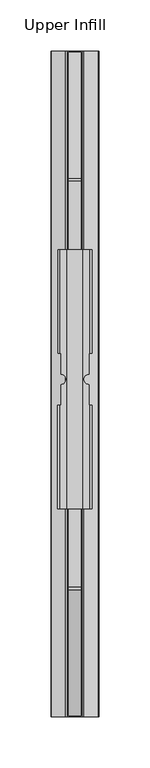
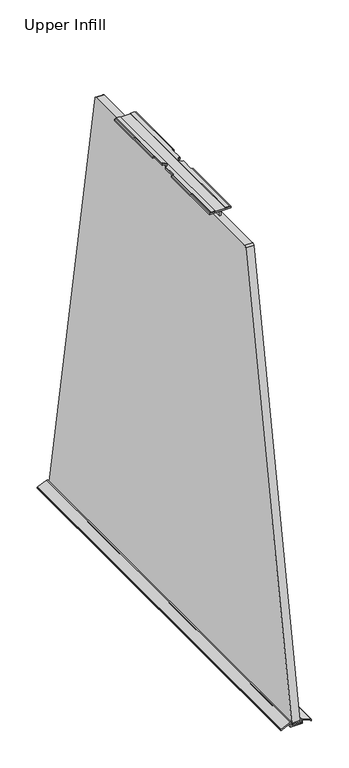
"""IFC4 building model written with IfcOpenShell, lengths in millimetres: furniture geometry, Steelcase Turnstone - Bivi - Arch - Infill : Upper Infill."""

from ifc_helpers import new_model, si_unit, point, frame, frame_2d, origin, place, context, project, spatial, polyline, circle_curve, trimmed, segment, composite_curve, outline, extrude, source, transform, mapped, element, save


def upper_infill_980a8054(model_context):
    return source(origin(), model_context, "Body", "SweptSolid", [
        extrude(outline(composite_curve([segment(polyline([(1056.3139006, 16.8483173), (1062.4147299, 16.8483173), (1062.4147299, 15.6367634), (1056.4592271, 1.4984313)]), True, "CONTINUOUS"), segment(trimmed(circle_curve(frame_2d((1055.6535592, 1.8378035)), 0.8742278), [point((1056.4592271, 1.4984313))], [point((1055.6230491, 0.9641082))], False, "CARTESIAN"), True, "CONTINUOUS"), segment(polyline([(1055.6230491, 0.9641082), (1054.287319, 1.010753), (1054.287319, 2.4550533), (1054.9932365, 2.8463498), (1060.4032547, 14.7924092)]), True, "CONTINUOUS"), segment(trimmed(circle_curve(frame_2d((1060.0245366, 14.9639195)), 0.4157442), [point((1060.4032547, 14.7924092))], [point((1060.0245366, 15.3796636))], True, "CARTESIAN"), True, "CONTINUOUS"), segment(polyline([(1060.0245366, 15.3796636), (1054.5412279, 15.3796636), (1054.5412279, 33.7439364), (1060.0245366, 33.7439364)]), True, "CONTINUOUS"), segment(trimmed(circle_curve(frame_2d((1060.0245366, 34.1596805)), 0.4157442), [point((1060.0245366, 33.7439364))], [point((1060.4032547, 34.3311908))], True, "CARTESIAN"), True, "CONTINUOUS"), segment(polyline([(1060.4032547, 34.3311908), (1054.9932365, 46.2772502), (1054.287319, 46.6685467), (1054.287319, 48.112847), (1055.6230491, 48.1594918)]), True, "CONTINUOUS"), segment(trimmed(circle_curve(frame_2d((1055.6535592, 47.2857965)), 0.8742278), [point((1055.6230491, 48.1594918))], [point((1056.4592271, 47.6251687))], False, "CARTESIAN"), True, "CONTINUOUS"), segment(polyline([(1056.4592271, 47.6251687), (1062.4147299, 33.4868366), (1062.4147299, 32.0768452), (1056.3139006, 32.0768452), (1056.3139006, 16.8483173)]), True, "CONTINUOUS")], self_intersect=False)), frame((0.0, 210.1620205, 0.0), z_axis=(0.0, 1.0, 0.0), x_axis=(0.0, 0.0, 1.0)), (0.0, 0.0, 1.0), 652.7573386),
        extrude(outline(composite_curve([segment(polyline([(38.3158444, 566.4459443), (38.3158444, 546.0869541)]), True, "CONTINUOUS"), segment(trimmed(circle_curve(frame_2d((38.3158444, 541.0283867)), 5.0585674), [point((38.3158444, 546.0869541))], [point((38.3158444, 535.9698193))], True, "CARTESIAN"), True, "CONTINUOUS"), segment(polyline([(38.3158444, 535.9698193), (38.3158444, 515.5348269), (39.1647369, 515.5348269), (39.1647369, 414.0469758), (32.7531582, 414.0469758), (32.7531582, 668.046782), (39.1013415, 668.046782), (39.1013415, 566.4459443), (38.3158444, 566.4459443)]), True, "CONTINUOUS")], self_intersect=False)), frame((0.0, 0.0, 1772.7264847), z_axis=(0.0, 0.0, 1.0), x_axis=(1.0, 0.0, 0.0)), (0.0, 0.0, 1.0), 1.0160233),
        extrude(outline(composite_curve([segment(polyline([(10.8077556, 566.4459443), (10.0222585, 566.4459443), (10.0222585, 668.046782), (16.3704418, 668.046782), (16.3704418, 414.0469758), (9.9588631, 414.0469758), (9.9588631, 515.5348269), (10.8077556, 515.5348269), (10.8077556, 535.9698193)]), True, "CONTINUOUS"), segment(trimmed(circle_curve(frame_2d((10.8077556, 541.0283867)), 5.0585674), [point((10.8077556, 535.9698193))], [point((10.8077556, 546.0869541))], True, "CARTESIAN"), True, "CONTINUOUS"), segment(polyline([(10.8077556, 546.0869541), (10.8077556, 566.4459443)]), True, "CONTINUOUS")], self_intersect=False)), frame((0.0, 0.0, 1772.7264847), z_axis=(0.0, 0.0, 1.0), x_axis=(1.0, 0.0, 0.0)), (0.0, 0.0, 1.0), 1.0160233),
        extrude(outline(composite_curve([segment(polyline([(41.3835302, 668.046782), (41.3835302, 566.4459443), (38.3158444, 566.4459443), (38.3158444, 546.0869541)]), True, "CONTINUOUS"), segment(trimmed(circle_curve(frame_2d((38.3158444, 541.0283867)), 5.0585674), [point((38.3158444, 546.0869541))], [point((38.3158444, 535.9698193))], True, "CARTESIAN"), True, "CONTINUOUS"), segment(polyline([(38.3158444, 535.9698193), (38.3158444, 515.5348269), (41.3835302, 515.5348269), (41.3835302, 414.0469758), (7.7400698, 414.0469758), (7.7400698, 515.5348269), (10.8077556, 515.5348269), (10.8077556, 535.9698193)]), True, "CONTINUOUS"), segment(trimmed(circle_curve(frame_2d((10.8077556, 541.0283867)), 5.0585674), [point((10.8077556, 535.9698193))], [point((10.8077556, 546.0869541))], True, "CARTESIAN"), True, "CONTINUOUS"), segment(polyline([(10.8077556, 546.0869541), (10.8077556, 566.4459443), (7.8735207, 566.4459443), (7.8735207, 668.046782), (41.3835302, 668.046782)]), True, "CONTINUOUS")], self_intersect=False)), frame((0.0, 0.0, 1770.1865234), z_axis=(0.0, 0.0, 1.0), x_axis=(1.0, 0.0, 0.0)), (0.0, 0.0, 1.0), 2.5399612),
        extrude(outline(polyline([(1770.1865234, 23.4223899), (1760.7546077, 23.4223899), (1758.5053812, 23.8189892), (1758.5053812, 25.3790737), (1760.849673, 25.8347578), (1770.1865234, 25.8347578), (1770.1865234, 23.4223899)])), frame((0.0, 414.0469758, 0.0), z_axis=(0.0, 1.0, 0.0), x_axis=(0.0, 0.0, 1.0)), (0.0, 0.0, 1.0), 253.9998062),
        extrude(outline(composite_curve([segment(trimmed(circle_curve(frame_2d((859.0238934, 1058.9589298)), 2.8936428), [point((861.8735752, 1059.4614056))], [point((859.0238934, 1056.065287))], False, "CARTESIAN"), True, "CONTINUOUS"), segment(polyline([(859.0238934, 1056.065287), (214.4000056, 1056.065287)]), True, "CONTINUOUS"), segment(trimmed(circle_curve(frame_2d((214.4000056, 1059.160567)), 3.09528), [point((214.4000056, 1056.065287))], [point((211.3517499, 1059.6980567))], False, "CARTESIAN"), True, "CONTINUOUS"), segment(polyline([(211.3517499, 1059.6980567), (334.9546724, 1760.6850643)]), True, "CONTINUOUS"), segment(trimmed(circle_curve(frame_2d((337.9533945, 1760.1563087)), 3.0449822), [point((334.9546724, 1760.6850643))], [point((337.9533945, 1763.2012909))], False, "CARTESIAN"), True, "CONTINUOUS"), segment(polyline([(337.9533945, 1763.2012909), (735.8054438, 1763.2012909)]), True, "CONTINUOUS"), segment(trimmed(circle_curve(frame_2d((735.8054438, 1760.8418544)), 2.3594365), [point((735.8054438, 1763.2012909))], [point((738.1290351, 1761.2515663))], False, "CARTESIAN"), True, "CONTINUOUS"), segment(polyline([(738.1290351, 1761.2515663), (861.8735752, 1059.4614056)]), True, "CONTINUOUS")], self_intersect=False)), frame((18.3377491, 0.0, 0.0), z_axis=(1.0, 0.0, 0.0), x_axis=(0.0, 1.0, 0.0)), (0.0, 0.0, 1.0), 12.4475211),
    ])


if __name__ == "__main__":
    model = new_model("IFC4")
    model_context = context("Model", 3, world=origin())
    ifc_project = project(units=[si_unit("LENGTHUNIT", "METRE", prefix="MILLI")], contexts=[model_context])
    site = spatial("IfcSite", under=ifc_project)
    building = spatial("IfcBuilding", under=site)
    placement = place(None, origin())
    upper_infill_shape = upper_infill_980a8054(model_context)
    element("IfcFurniture", 1, ObjectType="Steelcase Turnstone - Bivi - Arch - Infill : Upper Infill", at=placement, inside=building, context=model_context, shape_type="MappedRepresentation", body=[
        mapped(upper_infill_shape, transform((0.0, 0.0, 0.0), x_axis=(1.0, 0.0, 0.0), y_axis=(0.0, 1.0, 0.0), z_axis=(0.0, 0.0, 1.0))),
    ])
    save(model, "model.ifc")
